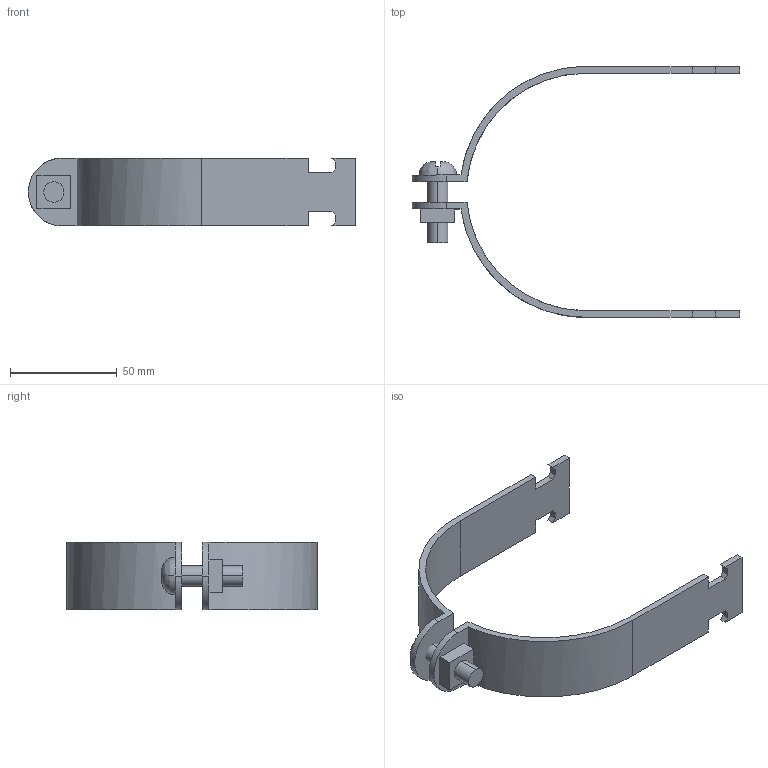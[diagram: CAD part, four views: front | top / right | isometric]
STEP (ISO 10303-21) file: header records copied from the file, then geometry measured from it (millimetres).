
FILE_DESCRIPTION(('TurboCAD Mac Pro'),'Build 980');
FILE_NAME('P2057.stp',' ',(''),(''),'ACIS Interop','IMSI','TurboCAD Mac Pro BY IMSI, INCORPORATED');
FILE_SCHEMA(('automotive_design'));
Length unit declared in the file: inch
Products named in the file (5): 1; 2; 3; 4; 5
Bounding box: 153.2 x 117.41 x 31.74 mm (x, y, z)
Volume: 38947.6 mm3; surface area: 27141.7 mm2
Topology: 4 solids, 4 shells, 71 faces, 186 edges, 124 vertices
Faces by surface type: plane 51, bspline 20
Entity records: 3435 total; most frequent: CARTESIAN_POINT 1034, ORIENTED_EDGE 372, DIRECTION 258, EDGE_CURVE 186, LINE 138, VECTOR 138, VERTEX_POINT 124, STYLED_ITEM 87
